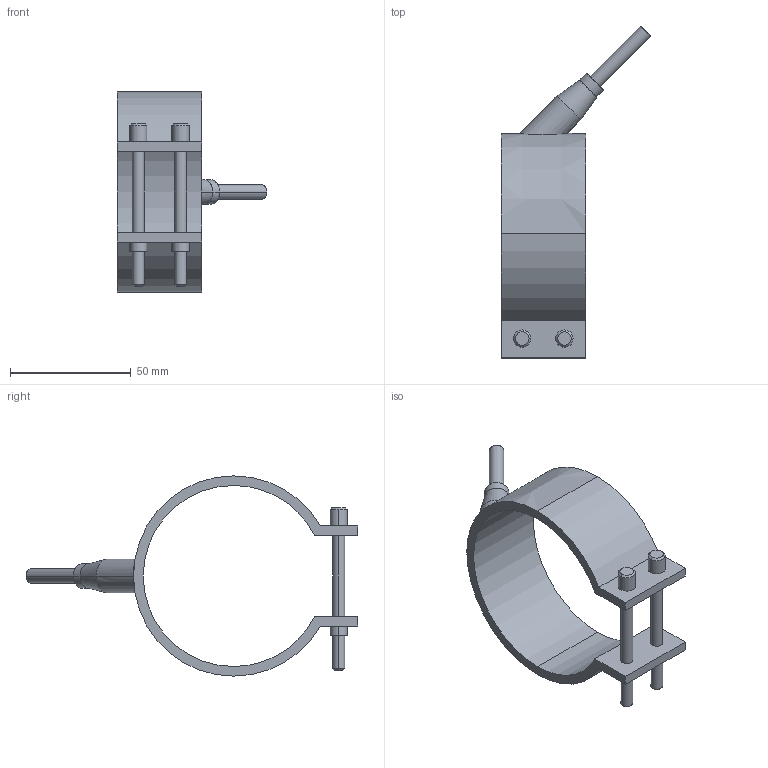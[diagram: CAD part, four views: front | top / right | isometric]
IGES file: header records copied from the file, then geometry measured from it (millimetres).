
Start section: START RECORD GO HERE.
Global section: file name: 29075035.igs; native system: DASSAULT SYSTEMES CATIA V5 R20 - www.3ds.com; preprocessor: CATIA Version 5 Release 20 ; author: Utente; organization: NB04-ASUS; date: 20210329.201536; units: millimetre
Bounding box: 62.05 x 137.55 x 83 mm (x, y, z)
Surface area: 22765.8 mm2 (no closed solid volume)
Topology: 0 solids, 0 shells, 54 faces, 250 edges, 250 vertices
Faces by surface type: revolution 38, plane 16
